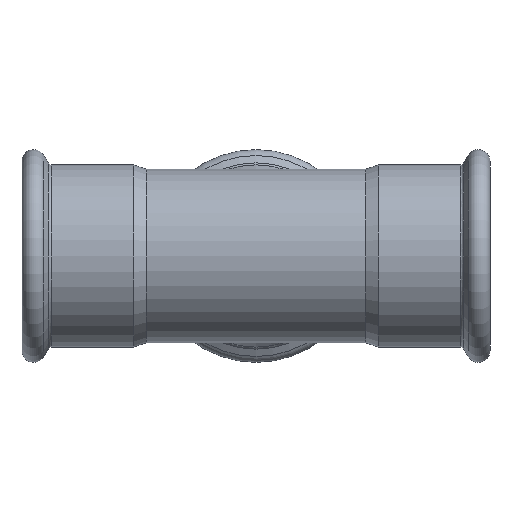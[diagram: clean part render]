
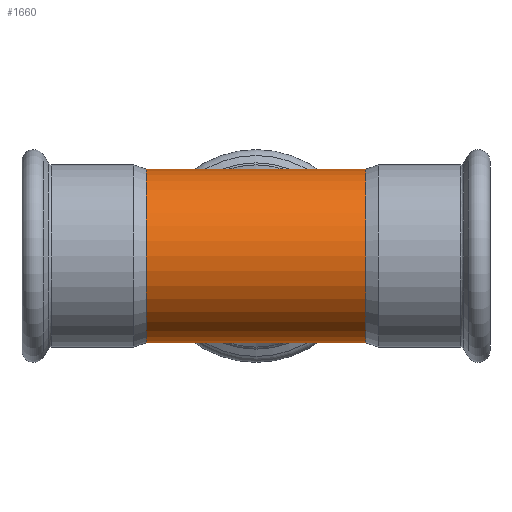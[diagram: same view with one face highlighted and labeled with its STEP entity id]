
A CAD part, front view. The second image highlights one B-rep face of the part: STEP entity #1660.
In plain terms, the highlighted cylindrical face has radius 44.45 mm (diameter 88.9 mm), a full revolution.
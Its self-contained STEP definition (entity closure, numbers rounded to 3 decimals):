
#1167=CARTESIAN_POINT('',(0.,0.0,-44.45));
#1168=VERTEX_POINT('',#1167);
#1169=CARTESIAN_POINT('',(0.,0.0,44.45));
#1170=VERTEX_POINT('',#1169);
#1171=CARTESIAN_POINT('',(0.0,0.0,0.0));
#1172=DIRECTION('',(0.691,0.722,0.));
#1173=DIRECTION('',(-0.722,0.691,0.0));
#1174=AXIS2_PLACEMENT_3D('',#1171,#1172,#1173);
#1175=ELLIPSE('',#1174,64.292,44.45);
#1176=EDGE_CURVE('',#1168,#1170,#1175,.T.);
#1399=CARTESIAN_POINT('',(0.0,0.0,0.0));
#1400=DIRECTION('',(-0.691,0.722,0.));
#1401=DIRECTION('',(0.722,0.691,0.0));
#1402=AXIS2_PLACEMENT_3D('',#1399,#1400,#1401);
#1403=ELLIPSE('',#1402,64.292,44.45);
#1404=EDGE_CURVE('',#1170,#1168,#1403,.T.);
#1622=CARTESIAN_POINT('',(-56.328,44.45,0.0));
#1623=VERTEX_POINT('',#1622);
#1624=CARTESIAN_POINT('',(-56.328,0.,0.0));
#1625=DIRECTION('',(1.0,0.0,0.0));
#1626=DIRECTION('',(0.0,1.0,0.0));
#1627=AXIS2_PLACEMENT_3D('',#1624,#1625,#1626);
#1628=CIRCLE('',#1627,44.45);
#1629=EDGE_CURVE('',#1623,#1623,#1628,.T.);
#1637=CARTESIAN_POINT('',(0.,0.,0.0));
#1638=DIRECTION('',(1.0,0.,0.0));
#1639=DIRECTION('',(0.0,1.0,0.0));
#1640=AXIS2_PLACEMENT_3D('',#1637,#1638,#1639);
#1641=CYLINDRICAL_SURFACE('',#1640,44.45);
#1642=CARTESIAN_POINT('',(56.328,44.45,0.0));
#1643=VERTEX_POINT('',#1642);
#1644=CARTESIAN_POINT('',(56.328,0.,0.0));
#1645=DIRECTION('',(1.0,0.0,0.0));
#1646=DIRECTION('',(0.0,1.0,0.0));
#1647=AXIS2_PLACEMENT_3D('',#1644,#1645,#1646);
#1648=CIRCLE('',#1647,44.45);
#1649=EDGE_CURVE('',#1643,#1643,#1648,.T.);
#1650=ORIENTED_EDGE('',*,*,#1649,.F.);
#1651=EDGE_LOOP('',(#1650));
#1652=FACE_OUTER_BOUND('',#1651,.T.);
#1653=ORIENTED_EDGE('',*,*,#1176,.F.);
#1654=ORIENTED_EDGE('',*,*,#1404,.F.);
#1655=EDGE_LOOP('',(#1653,#1654));
#1656=FACE_BOUND('',#1655,.T.);
#1657=ORIENTED_EDGE('',*,*,#1629,.T.);
#1658=EDGE_LOOP('',(#1657));
#1659=FACE_BOUND('',#1658,.T.);
#1660=ADVANCED_FACE('',(#1652,#1656,#1659),#1641,.T.);
